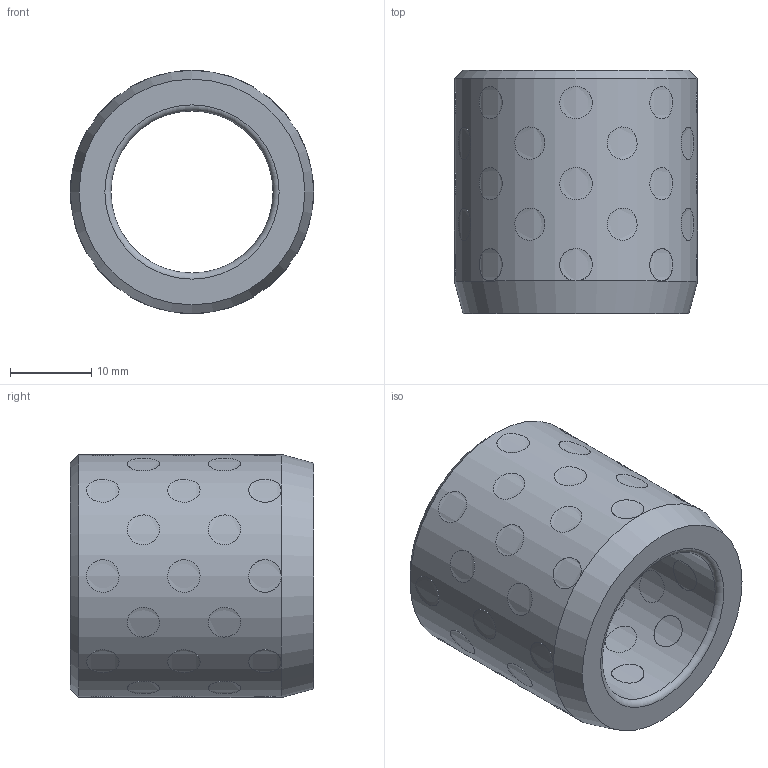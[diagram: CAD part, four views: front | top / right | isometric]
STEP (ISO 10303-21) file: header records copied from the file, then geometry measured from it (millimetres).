
FILE_DESCRIPTION( ( 'STEP AP203' ), '1' );
FILE_NAME( 'D:/Cuma/18 03 2010/D30.04/D30.04_203030.step', '2003-01-24T23:27:49', ( ' ' ), ( ' ' ), 'XStep 1.0', ' ', ' ' );
FILE_SCHEMA( ( 'CONFIG_CONTROL_DESIGN' ) );
Length unit declared in the file: metre
Products named in the file (49): 1; 2; 3; 4; 5; 6; 7; 8; 9; 10; 11; 12; 13; 14; 15; 16; 17; 18; 19; 20; 21; 22; 23; 24; 25; 26; 27; 28; 29; 30; 31; 32; 33; 34; 35; 36; 37; 38; 39; 40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
Bounding box: 30 x 30 x 30 mm (x, y, z)
Volume: 14548.3 mm3; surface area: 9550.4 mm2
Topology: 49 solids, 49 shells, 152 faces, 158 edges, 104 vertices
Faces by surface type: cylinder 146, torus 2, plane 2, cone 2
Full cylindrical faces by diameter (mm): 4 x48, 20 x1, 30 x1
Entity records: 9525 total; most frequent: CARTESIAN_POINT 5497, DIRECTION 418, CC_DESIGN_PERSON_AND_ORGANIZATION_ASSIGNMENT 245, AXIS2_PLACEMENT_3D 209, EDGE_LOOP 208, ORIENTED_EDGE 208, FACE_OUTER_BOUND 204, PERSON_AND_ORGANIZATION_ROLE 196
